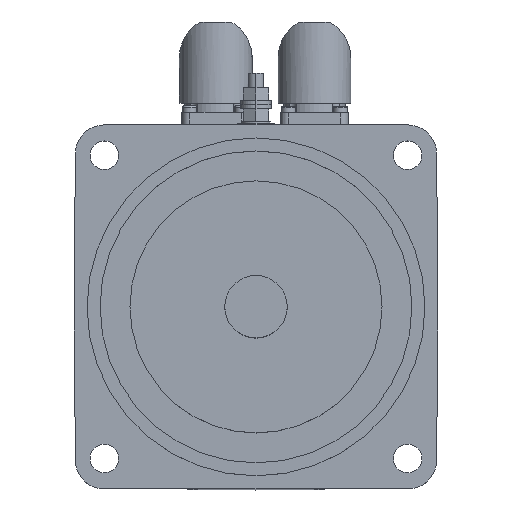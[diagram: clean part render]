
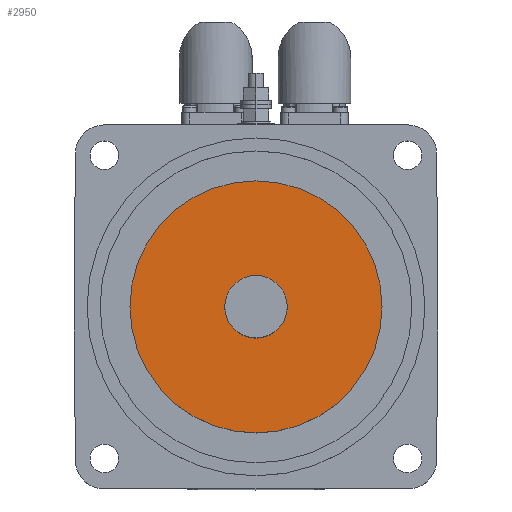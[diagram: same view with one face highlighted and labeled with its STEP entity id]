
A CAD part, top view. The second image highlights one B-rep face of the part: STEP entity #2950.
In plain terms, the highlighted planar face has unit normal (0, 0, 1).
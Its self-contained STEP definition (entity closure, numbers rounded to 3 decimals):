
#1772 = DIRECTION ( 'NONE',  ( -1., 0., 0. ) ) ;
#1773 = DIRECTION ( 'NONE',  ( 0., 0., -1. ) ) ;
#1775 = PLANE ( 'NONE',  #6388 ) ;
#1777 = CARTESIAN_POINT ( 'NONE',  ( 0., 48.5, -4.5 ) ) ;
#2950 = ADVANCED_FACE ( 'NONE', ( #10508, #10513 ), #1775, .F. ) ;
#4789 = AXIS2_PLACEMENT_3D ( 'NONE', #8202, #8203, #8204 ) ;
#4817 = AXIS2_PLACEMENT_3D ( 'NONE', #8349, #8350, #8351 ) ;
#4818 = AXIS2_PLACEMENT_3D ( 'NONE', #8359, #8360, #8361 ) ;
#4819 = AXIS2_PLACEMENT_3D ( 'NONE', #8365, #8370, #8371 ) ;
#6388 = AXIS2_PLACEMENT_3D ( 'NONE', #1777, #1773, #1772 ) ;
#7063 = EDGE_CURVE ( 'NONE', #7266, #7267, #13598, .T. ) ;
#7122 = EDGE_CURVE ( 'NONE', #7267, #7266, #13688, .T. ) ;
#7126 = EDGE_CURVE ( 'NONE', #7278, #7246, #13695, .T. ) ;
#7130 = EDGE_CURVE ( 'NONE', #7246, #7278, #13699, .T. ) ;
#7246 = VERTEX_POINT ( 'NONE', #8473 ) ;
#7266 = VERTEX_POINT ( 'NONE', #8493 ) ;
#7267 = VERTEX_POINT ( 'NONE', #8494 ) ;
#7278 = VERTEX_POINT ( 'NONE', #8505 ) ;
#8202 = CARTESIAN_POINT ( 'NONE',  ( 0., 0., -4.5 ) ) ;
#8203 = DIRECTION ( 'NONE',  ( 0., 0., 1. ) ) ;
#8204 = DIRECTION ( 'NONE',  ( -1., 0., 0. ) ) ;
#8349 = CARTESIAN_POINT ( 'NONE',  ( 0., 0., -4.5 ) ) ;
#8350 = DIRECTION ( 'NONE',  ( 0., 0., 1. ) ) ;
#8351 = DIRECTION ( 'NONE',  ( -1., 0., 0. ) ) ;
#8359 = CARTESIAN_POINT ( 'NONE',  ( 0., 0., -4.5 ) ) ;
#8360 = DIRECTION ( 'NONE',  ( 0., 0., -1. ) ) ;
#8361 = DIRECTION ( 'NONE',  ( -1., 0., 0. ) ) ;
#8365 = CARTESIAN_POINT ( 'NONE',  ( 0., 0., -4.5 ) ) ;
#8370 = DIRECTION ( 'NONE',  ( 0., 0., -1. ) ) ;
#8371 = DIRECTION ( 'NONE',  ( -1., 0., 0. ) ) ;
#8473 = CARTESIAN_POINT ( 'NONE',  ( -48.5, 0., -4.5 ) ) ;
#8493 = CARTESIAN_POINT ( 'NONE',  ( 12., 0., -4.5 ) ) ;
#8494 = CARTESIAN_POINT ( 'NONE',  ( -12., 0., -4.5 ) ) ;
#8505 = CARTESIAN_POINT ( 'NONE',  ( 48.5, 0., -4.5 ) ) ;
#10508 = FACE_OUTER_BOUND ( 'NONE', #14145, .T. ) ;
#10513 = FACE_BOUND ( 'NONE', #14881, .T. ) ;
#13598 = CIRCLE ( 'NONE', #4789, 12. ) ;
#13688 = CIRCLE ( 'NONE', #4817, 12. ) ;
#13695 = CIRCLE ( 'NONE', #4818, 48.5 ) ;
#13699 = CIRCLE ( 'NONE', #4819, 48.5 ) ;
#14145 = EDGE_LOOP ( 'NONE', ( #14323, #14324 ) ) ;
#14323 = ORIENTED_EDGE ( 'NONE', *, *, #7130, .F. ) ;
#14324 = ORIENTED_EDGE ( 'NONE', *, *, #7126, .F. ) ;
#14325 = ORIENTED_EDGE ( 'NONE', *, *, #7122, .F. ) ;
#14327 = ORIENTED_EDGE ( 'NONE', *, *, #7063, .F. ) ;
#14881 = EDGE_LOOP ( 'NONE', ( #14325, #14327 ) ) ;
